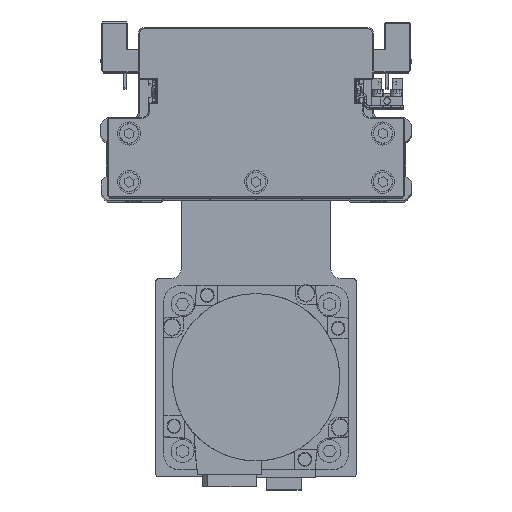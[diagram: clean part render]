
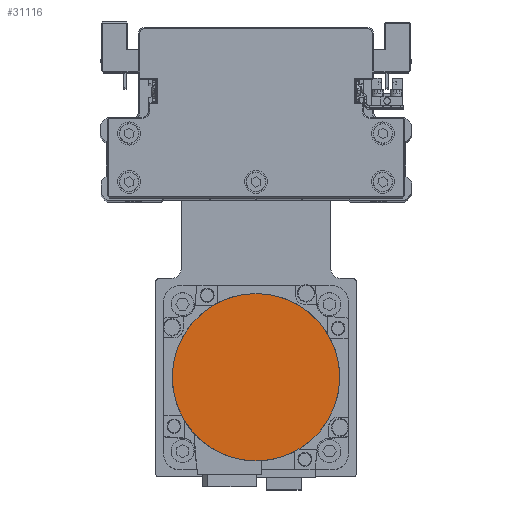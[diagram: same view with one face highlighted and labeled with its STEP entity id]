
A CAD part, top view. The second image highlights one B-rep face of the part: STEP entity #31116.
In plain terms, the highlighted planar face has unit normal (0, 0, 1) as drawn and (0, 0, -1) by its records, which use the part's own axes.
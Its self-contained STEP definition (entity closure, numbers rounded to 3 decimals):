
#529 = CARTESIAN_POINT ( 'NONE',  ( 0., 0., -122.2 ) ) ;
#1550 = CIRCLE ( 'NONE', #23863, 36.3 ) ;
#1863 = EDGE_CURVE ( 'NONE', #15013, #26313, #20711, .T. ) ;
#3499 = AXIS2_PLACEMENT_3D ( 'NONE', #529, #12705, #24868 ) ;
#5156 = AXIS2_PLACEMENT_3D ( 'NONE', #35181, #7920, #20103 ) ;
#7920 = DIRECTION ( 'NONE',  ( 0., 0., 1. ) ) ;
#8637 = ORIENTED_EDGE ( 'NONE', *, *, #14297, .F. ) ;
#9176 = CARTESIAN_POINT ( 'NONE',  ( 0., 0., -122.2 ) ) ;
#10895 = FACE_OUTER_BOUND ( 'NONE', #37411, .T. ) ;
#12705 = DIRECTION ( 'NONE',  ( 0., 0., 1. ) ) ;
#14297 = EDGE_CURVE ( 'NONE', #26313, #15013, #1550, .T. ) ;
#15013 = VERTEX_POINT ( 'NONE', #26777 ) ;
#20103 = DIRECTION ( 'NONE',  ( 1., 0., 0. ) ) ;
#20711 = CIRCLE ( 'NONE', #3499, 36.3 ) ;
#21381 = DIRECTION ( 'NONE',  ( 0., 0., 1. ) ) ;
#23069 = PLANE ( 'NONE',  #5156 ) ;
#23863 = AXIS2_PLACEMENT_3D ( 'NONE', #9176, #21381, #33481 ) ;
#24868 = DIRECTION ( 'NONE',  ( 0., -1., 0. ) ) ;
#26313 = VERTEX_POINT ( 'NONE', #31488 ) ;
#26777 = CARTESIAN_POINT ( 'NONE',  ( 0., -36.3, -122.2 ) ) ;
#30783 = ORIENTED_EDGE ( 'NONE', *, *, #1863, .F. ) ;
#31116 = ADVANCED_FACE ( 'NONE', ( #10895 ), #23069, .F. ) ;
#31488 = CARTESIAN_POINT ( 'NONE',  ( 0., 36.3, -122.2 ) ) ;
#33481 = DIRECTION ( 'NONE',  ( 0., 1., 0. ) ) ;
#35181 = CARTESIAN_POINT ( 'NONE',  ( 0., 0., -122.2 ) ) ;
#37411 = EDGE_LOOP ( 'NONE', ( #8637, #30783 ) ) ;
